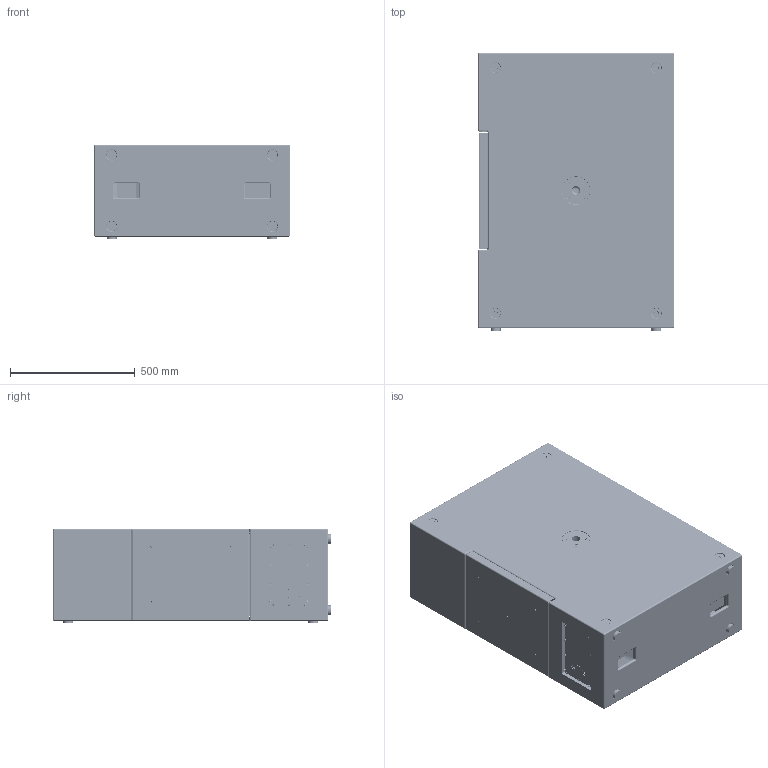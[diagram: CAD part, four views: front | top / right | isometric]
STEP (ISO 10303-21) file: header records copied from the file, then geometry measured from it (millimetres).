
FILE_DESCRIPTION(/* description */ (''),/* implementation_level */ '2;1');
FILE_NAME(/* name */ 'Thunder-KSCARDIO412P',/* time_stamp */ '2026-03-12T16:16:34+01:00',/* author */ (''),/* organization */ (''),/* preprocessor_version */ 'ST-DEVELOPER v19.2',/* originating_system */ 'Rhino 8.24',/* authorisation */ '');
FILE_SCHEMA (('CONFIG_CONTROL_DESIGN'));
Products named in the file (15): Document; Blocco 02; Blocco 01; M3X6TBBI; MCP029G03GRZ_02; VTA2.9X13STIN0; MCP191A04_01; MCP141P03_01; VTM04X20BTIN0; MMBLC021; VTM05X20BTINO; LOGOKMEDIOTIT; VTM06X30STIN0; MMFTT08X23; MCP191A03_02
Bounding box: 785 x 1115 x 381 mm (x, y, z)
Volume: 37635025.2 mm3; surface area: 6974487.5 mm2
Topology: 73 solids, 79 shells, 4051 faces, 10662 edges, 6861 vertices
Faces by surface type: cylinder 2059, plane 1210, bspline 782
Entity records: 129880 total; most frequent: CARTESIAN_POINT 75521, ORIENTED_EDGE 13220, EDGE_CURVE 6618, DIRECTION 6302, VERTEX_POINT 4288, AXIS2_PLACEMENT_3D 4179, B_SPLINE_CURVE_WITH_KNOTS 3759, EDGE_LOOP 2854
